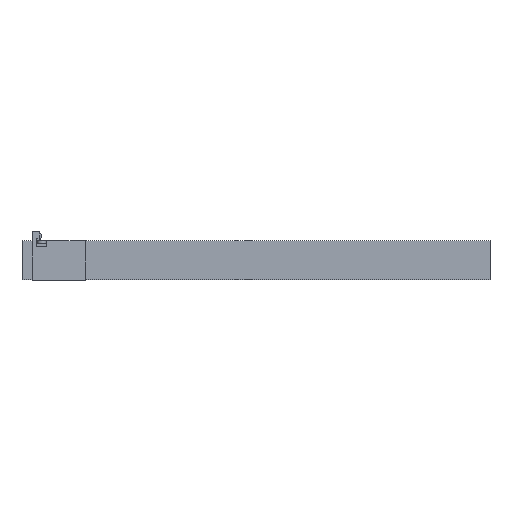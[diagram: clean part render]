
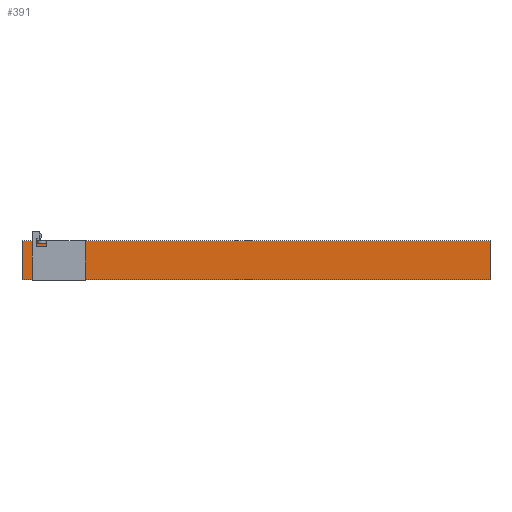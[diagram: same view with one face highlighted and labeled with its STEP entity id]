
A CAD part, top view. The second image highlights one B-rep face of the part: STEP entity #391.
In plain terms, the highlighted planar face has unit normal (0, 0, 1).
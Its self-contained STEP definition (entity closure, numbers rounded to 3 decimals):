
#36=FACE_OUTER_BOUND('',#63,.T.);
#63=EDGE_LOOP('',(#277,#278,#279,#280));
#86=LINE('',#582,#131);
#90=LINE('',#590,#135);
#93=LINE('',#596,#138);
#96=LINE('',#601,#141);
#131=VECTOR('',#469,10.);
#135=VECTOR('',#475,10.);
#138=VECTOR('',#480,10.);
#141=VECTOR('',#485,10.);
#176=VERTEX_POINT('',#580);
#177=VERTEX_POINT('',#581);
#180=VERTEX_POINT('',#589);
#182=VERTEX_POINT('',#595);
#210=EDGE_CURVE('',#176,#177,#86,.T.);
#214=EDGE_CURVE('',#177,#180,#90,.T.);
#217=EDGE_CURVE('',#180,#182,#93,.T.);
#220=EDGE_CURVE('',#182,#176,#96,.T.);
#277=ORIENTED_EDGE('',*,*,#220,.T.);
#278=ORIENTED_EDGE('',*,*,#210,.T.);
#279=ORIENTED_EDGE('',*,*,#214,.T.);
#280=ORIENTED_EDGE('',*,*,#217,.T.);
#367=PLANE('',#436);
#391=ADVANCED_FACE('',(#36),#367,.T.);
#436=AXIS2_PLACEMENT_3D('',#603,#487,#488);
#469=DIRECTION('',(1.,0.,0.));
#475=DIRECTION('',(0.,1.,0.));
#480=DIRECTION('',(-1.,0.,0.));
#485=DIRECTION('',(0.,-1.,0.));
#487=DIRECTION('center_axis',(0.,0.,1.));
#488=DIRECTION('ref_axis',(1.,0.,0.));
#580=CARTESIAN_POINT('',(0.,0.,0.));
#581=CARTESIAN_POINT('',(836.,0.,0.));
#582=CARTESIAN_POINT('',(0.,0.,0.));
#589=CARTESIAN_POINT('',(836.,70.,0.));
#590=CARTESIAN_POINT('',(836.,0.,0.));
#595=CARTESIAN_POINT('',(0.,70.,0.));
#596=CARTESIAN_POINT('',(836.,70.,0.));
#601=CARTESIAN_POINT('',(0.,70.,0.));
#603=CARTESIAN_POINT('Origin',(418.,35.,0.));
